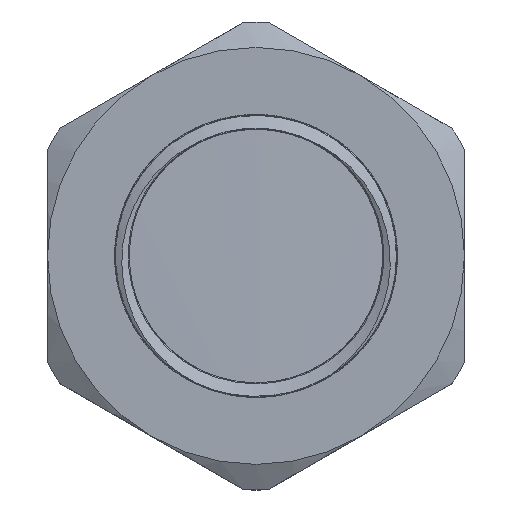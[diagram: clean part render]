
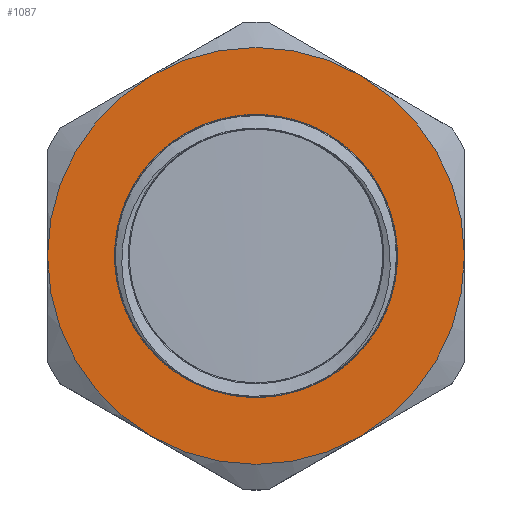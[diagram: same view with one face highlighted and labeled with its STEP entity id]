
A CAD part, top view. The second image highlights one B-rep face of the part: STEP entity #1087.
In plain terms, the highlighted planar face has unit normal (0, 0, 1).
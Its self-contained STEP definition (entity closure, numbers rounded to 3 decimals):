
#107=FACE_BOUND('',#333,.T.);
#121=PLANE('',#1199);
#265=FACE_OUTER_BOUND('',#332,.T.);
#332=EDGE_LOOP('',(#824,#825,#826,#827,#828,#829));
#333=EDGE_LOOP('',(#830,#831));
#382=CIRCLE('',#1154,24.5);
#384=CIRCLE('',#1157,24.5);
#386=CIRCLE('',#1160,24.5);
#387=CIRCLE('',#1162,24.5);
#389=CIRCLE('',#1165,24.5);
#391=CIRCLE('',#1168,24.5);
#406=CIRCLE('',#1200,16.62);
#407=CIRCLE('',#1201,16.62);
#436=VERTEX_POINT('',#1484);
#438=VERTEX_POINT('',#1490);
#440=VERTEX_POINT('',#1497);
#443=VERTEX_POINT('',#1509);
#446=VERTEX_POINT('',#1524);
#449=VERTEX_POINT('',#1536);
#472=VERTEX_POINT('',#1623);
#473=VERTEX_POINT('',#1624);
#551=EDGE_CURVE('',#436,#438,#382,.T.);
#555=EDGE_CURVE('',#440,#436,#384,.T.);
#559=EDGE_CURVE('',#443,#440,#386,.T.);
#561=EDGE_CURVE('',#446,#443,#387,.T.);
#565=EDGE_CURVE('',#449,#446,#389,.T.);
#569=EDGE_CURVE('',#438,#449,#391,.T.);
#605=EDGE_CURVE('',#472,#473,#406,.T.);
#606=EDGE_CURVE('',#473,#472,#407,.T.);
#824=ORIENTED_EDGE('',*,*,#569,.T.);
#825=ORIENTED_EDGE('',*,*,#565,.T.);
#826=ORIENTED_EDGE('',*,*,#561,.T.);
#827=ORIENTED_EDGE('',*,*,#559,.T.);
#828=ORIENTED_EDGE('',*,*,#555,.T.);
#829=ORIENTED_EDGE('',*,*,#551,.T.);
#830=ORIENTED_EDGE('',*,*,#605,.F.);
#831=ORIENTED_EDGE('',*,*,#606,.F.);
#1087=ADVANCED_FACE('',(#265,#107),#121,.T.);
#1154=AXIS2_PLACEMENT_3D('',#1494,#1253,#1254);
#1157=AXIS2_PLACEMENT_3D('',#1506,#1259,#1260);
#1160=AXIS2_PLACEMENT_3D('',#1518,#1265,#1266);
#1162=AXIS2_PLACEMENT_3D('',#1525,#1269,#1270);
#1165=AXIS2_PLACEMENT_3D('',#1537,#1275,#1276);
#1168=AXIS2_PLACEMENT_3D('',#1548,#1281,#1282);
#1199=AXIS2_PLACEMENT_3D('',#1622,#1363,#1364);
#1200=AXIS2_PLACEMENT_3D('',#1625,#1365,#1366);
#1201=AXIS2_PLACEMENT_3D('',#1626,#1367,#1368);
#1253=DIRECTION('center_axis',(0.,0.,1.));
#1254=DIRECTION('ref_axis',(0.,1.,0.));
#1259=DIRECTION('center_axis',(0.,0.,1.));
#1260=DIRECTION('ref_axis',(0.,1.,0.));
#1265=DIRECTION('center_axis',(0.,0.,1.));
#1266=DIRECTION('ref_axis',(0.,1.,0.));
#1269=DIRECTION('center_axis',(0.,0.,1.));
#1270=DIRECTION('ref_axis',(0.,1.,0.));
#1275=DIRECTION('center_axis',(0.,0.,1.));
#1276=DIRECTION('ref_axis',(0.,1.,0.));
#1281=DIRECTION('center_axis',(0.,0.,1.));
#1282=DIRECTION('ref_axis',(0.,1.,0.));
#1363=DIRECTION('center_axis',(0.,0.,1.));
#1364=DIRECTION('ref_axis',(1.,0.,0.));
#1365=DIRECTION('center_axis',(0.,0.,1.));
#1366=DIRECTION('ref_axis',(1.,0.,0.));
#1367=DIRECTION('center_axis',(0.,0.,1.));
#1368=DIRECTION('ref_axis',(1.,0.,0.));
#1484=CARTESIAN_POINT('',(12.25,21.218,25.));
#1490=CARTESIAN_POINT('',(-12.25,21.218,25.));
#1494=CARTESIAN_POINT('Origin',(0.,0.,25.));
#1497=CARTESIAN_POINT('',(24.5,0.,25.));
#1506=CARTESIAN_POINT('Origin',(0.,0.,25.));
#1509=CARTESIAN_POINT('',(12.25,-21.218,25.));
#1518=CARTESIAN_POINT('Origin',(0.,0.,25.));
#1524=CARTESIAN_POINT('',(-12.25,-21.218,25.));
#1525=CARTESIAN_POINT('Origin',(0.,0.,25.));
#1536=CARTESIAN_POINT('',(-24.5,0.,25.));
#1537=CARTESIAN_POINT('Origin',(0.,0.,25.));
#1548=CARTESIAN_POINT('Origin',(0.,0.,25.));
#1622=CARTESIAN_POINT('Origin',(0.,-16.62,25.));
#1623=CARTESIAN_POINT('',(0.,-16.62,25.));
#1624=CARTESIAN_POINT('',(0.,16.62,25.));
#1625=CARTESIAN_POINT('Origin',(0.,0.,25.));
#1626=CARTESIAN_POINT('Origin',(0.,0.,25.));
